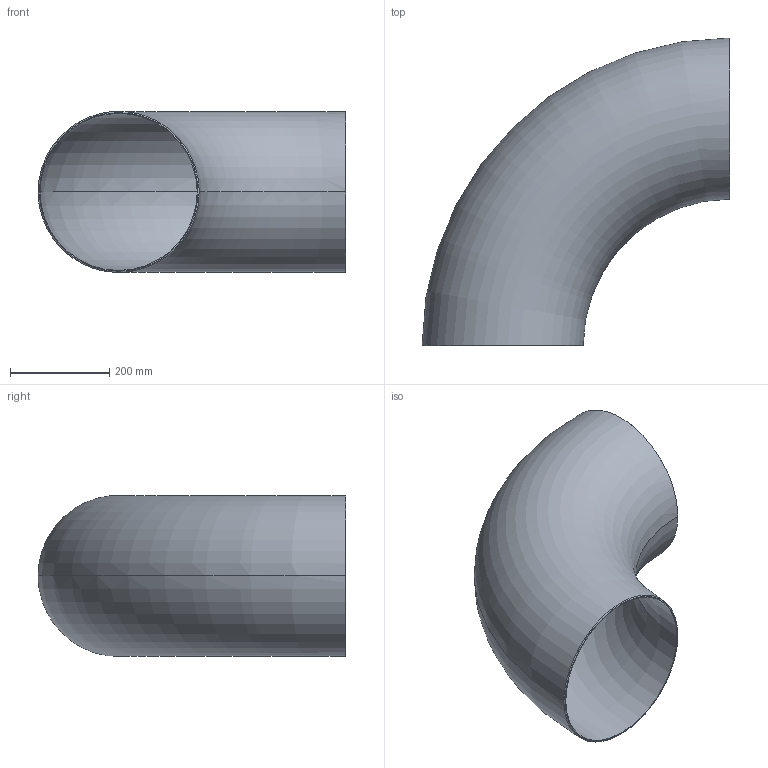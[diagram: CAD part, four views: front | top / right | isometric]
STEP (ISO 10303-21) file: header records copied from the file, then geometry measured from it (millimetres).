
FILE_DESCRIPTION (( 'STEP AP203' ), '1' );
FILE_NAME ('OT200-300-323_9x4_OSTP.step', '2020-12-16T03:04:35', ( '' ), ( '' ), 'SwSTEP 2.0', 'SolidWorks 2014', '' );
FILE_SCHEMA (( 'CONFIG_CONTROL_DESIGN' ));
Length unit declared in the file: millimetre
Products named in the file (1): OT200-300-323_9x4_OSTP
Bounding box: 618.95 x 618.95 x 323.54 mm (x, y, z)
Volume: 2873389.1 mm3; surface area: 1448240.6 mm2
Topology: 1 solids, 1 shells, 10 faces, 20 edges, 12 vertices
Faces by surface type: torus 4, cone 4, plane 2
Entity records: 629 total; most frequent: CARTESIAN_POINT 335, DIRECTION 50, ORIENTED_EDGE 40, AXIS2_PLACEMENT_3D 23, EDGE_CURVE 20, CIRCLE 12, EDGE_LOOP 12, VERTEX_POINT 12
